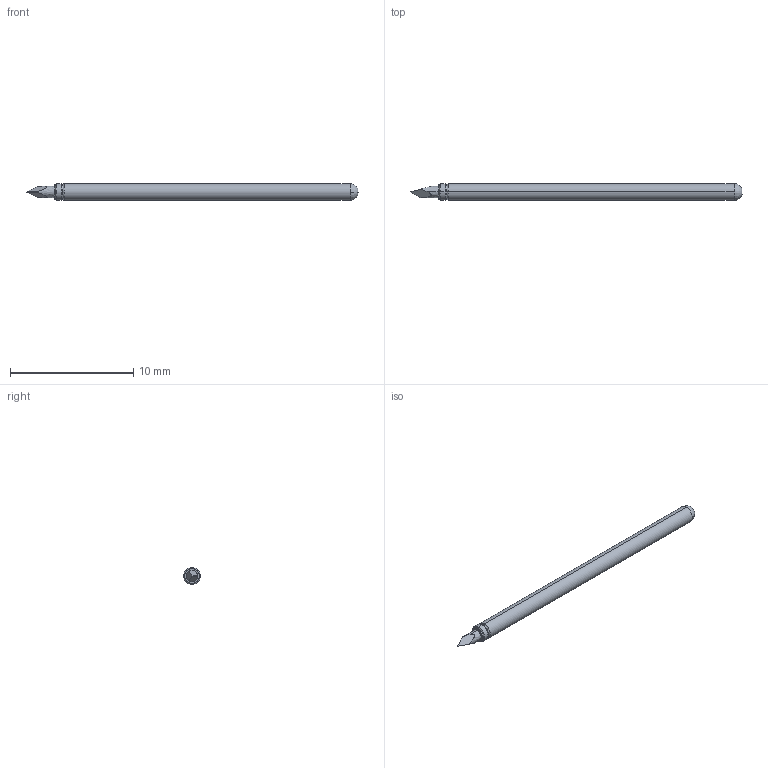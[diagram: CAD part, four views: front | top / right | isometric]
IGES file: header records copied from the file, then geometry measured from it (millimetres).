
Start section: SolidWorks IGES file using analytic representation for surfaces
Global section: file name: Z:\probe solid model mockups\Solidworks models\LTP-25\LTP-25T36 Full.IGS; native system: SolidWorks 2006 by SolidWorks Corporation; preprocessor: SolidWorks 2006 by SolidWorks Corporation; author: tsakatani; date: 071214.143434; units: inch
Bounding box: 26.92 x 1.37 x 1.37 mm (x, y, z)
Surface area: 112.2 mm2 (no closed solid volume)
Topology: 0 solids, 0 shells, 21 faces, 166 edges, 166 vertices
Faces by surface type: revolution 12, bspline 9
